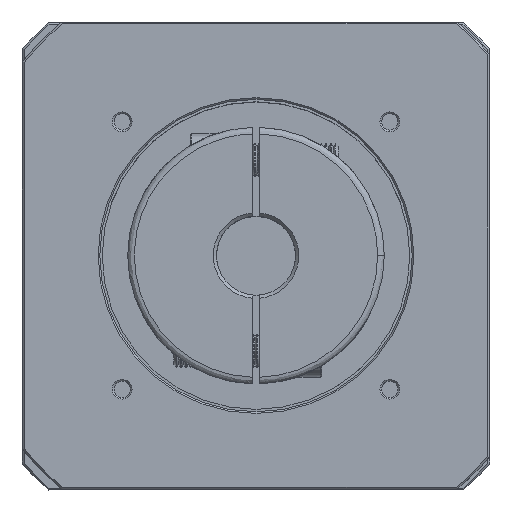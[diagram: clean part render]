
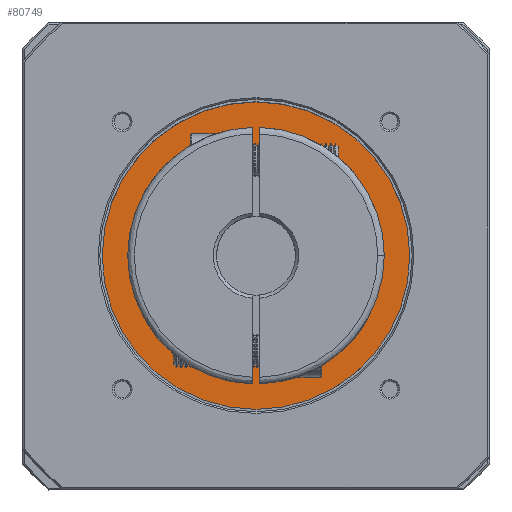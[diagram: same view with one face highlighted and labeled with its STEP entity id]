
A CAD part, top view. The second image highlights one B-rep face of the part: STEP entity #80749.
In plain terms, the highlighted planar face has unit normal (0, 0, -1).
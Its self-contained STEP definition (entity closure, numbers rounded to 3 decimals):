
#1911 = DIRECTION ( 'NONE',  ( 0., 0., 1. ) ) ;
#5443 = DIRECTION ( 'NONE',  ( 0., 0., -1. ) ) ;
#8355 = CARTESIAN_POINT ( 'NONE',  ( 0., 0., 126.5 ) ) ;
#12540 = EDGE_CURVE ( 'NONE', #70582, #98349, #46198, .T. ) ;
#16308 = DIRECTION ( 'NONE',  ( 1., 0., 0. ) ) ;
#17087 = AXIS2_PLACEMENT_3D ( 'NONE', #49437, #1911, #57354 ) ;
#17163 = CARTESIAN_POINT ( 'NONE',  ( 0., 0., 126.5 ) ) ;
#17493 = PLANE ( 'NONE',  #17087 ) ;
#24822 = ORIENTED_EDGE ( 'NONE', *, *, #89596, .F. ) ;
#25126 = DIRECTION ( 'NONE',  ( 0., 1., 0. ) ) ;
#27022 = CIRCLE ( 'NONE', #52458, 30. ) ;
#28967 = EDGE_LOOP ( 'NONE', ( #57160, #24822 ) ) ;
#29916 = CARTESIAN_POINT ( 'NONE',  ( 0., 0., 126.5 ) ) ;
#33528 = CIRCLE ( 'NONE', #36274, 30. ) ;
#34095 = EDGE_CURVE ( 'NONE', #37327, #85188, #27022, .T. ) ;
#34102 = ORIENTED_EDGE ( 'NONE', *, *, #12540, .T. ) ;
#36274 = AXIS2_PLACEMENT_3D ( 'NONE', #29916, #85375, #37896 ) ;
#37327 = VERTEX_POINT ( 'NONE', #84001 ) ;
#37896 = DIRECTION ( 'NONE',  ( 1., 0., 0. ) ) ;
#46198 = CIRCLE ( 'NONE', #99754, 46.75 ) ;
#47697 = FACE_BOUND ( 'NONE', #28967, .T. ) ;
#49437 = CARTESIAN_POINT ( 'NONE',  ( -47.311, -47.311, 126.5 ) ) ;
#52458 = AXIS2_PLACEMENT_3D ( 'NONE', #8355, #63805, #16308 ) ;
#52950 = CARTESIAN_POINT ( 'NONE',  ( 0., 0., 126.5 ) ) ;
#55472 = CARTESIAN_POINT ( 'NONE',  ( 0., -46.75, 126.5 ) ) ;
#57160 = ORIENTED_EDGE ( 'NONE', *, *, #34095, .F. ) ;
#57354 = DIRECTION ( 'NONE',  ( 1., 0., 0. ) ) ;
#60898 = DIRECTION ( 'NONE',  ( 0., 1., 0. ) ) ;
#63749 = AXIS2_PLACEMENT_3D ( 'NONE', #17163, #72612, #25126 ) ;
#63805 = DIRECTION ( 'NONE',  ( 0., 0., -1. ) ) ;
#70582 = VERTEX_POINT ( 'NONE', #55472 ) ;
#72612 = DIRECTION ( 'NONE',  ( 0., 0., -1. ) ) ;
#80749 = ADVANCED_FACE ( 'NONE', ( #47697, #87345 ), #17493, .F. ) ;
#82486 = EDGE_CURVE ( 'NONE', #98349, #70582, #85754, .T. ) ;
#83705 = ORIENTED_EDGE ( 'NONE', *, *, #82486, .T. ) ;
#84001 = CARTESIAN_POINT ( 'NONE',  ( 30., 0., 126.5 ) ) ;
#85188 = VERTEX_POINT ( 'NONE', #90419 ) ;
#85375 = DIRECTION ( 'NONE',  ( 0., 0., -1. ) ) ;
#85552 = CARTESIAN_POINT ( 'NONE',  ( 0., 46.75, 126.5 ) ) ;
#85754 = CIRCLE ( 'NONE', #63749, 46.75 ) ;
#87345 = FACE_OUTER_BOUND ( 'NONE', #100092, .T. ) ;
#89596 = EDGE_CURVE ( 'NONE', #85188, #37327, #33528, .T. ) ;
#90419 = CARTESIAN_POINT ( 'NONE',  ( -30., 0., 126.5 ) ) ;
#98349 = VERTEX_POINT ( 'NONE', #85552 ) ;
#99754 = AXIS2_PLACEMENT_3D ( 'NONE', #52950, #5443, #60898 ) ;
#100092 = EDGE_LOOP ( 'NONE', ( #83705, #34102 ) ) ;
